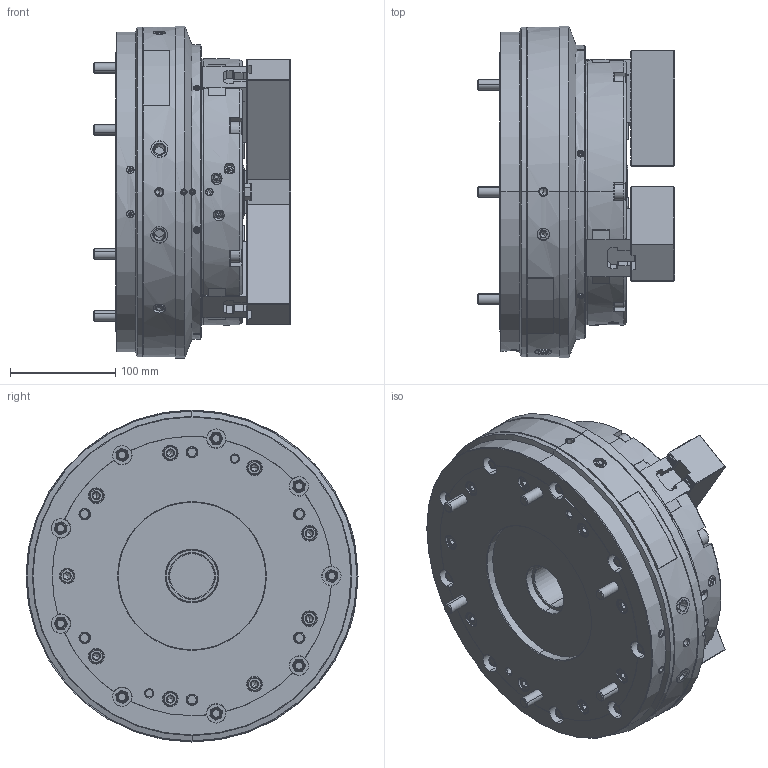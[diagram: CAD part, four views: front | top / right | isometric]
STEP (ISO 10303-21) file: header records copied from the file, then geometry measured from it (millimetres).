
FILE_DESCRIPTION (( 'STEP AP214' ), '1' );
FILE_NAME ('DEV-NRC10-UC.STEP', '2024-10-03T05:15:47', ( '' ), ( '' ), 'SwSTEP 2.0', 'SolidWorks 2022', '' );
FILE_SCHEMA (( 'AUTOMOTIVE_DESIGN' ));
Length unit declared in the file: millimetre
Products named in the file (9): DEV-NRC10-UC; Copy of 0030110130^DEV-NRC10-クミタテ; Copy of 0263003600^DEV-NRC10-クミタテ_円筒用; Part1^DEV-NRC10-クミタテ; Copy of 0693000002^DEV-NRC10-クミタテ; Copy of 61P300113^DEV-NRC10-クミタテ; Copy of 61P413698^DEV-NRC10-クミタテ; Copy of 0030112035^DEV-NRC10-クミタテ; Copy of 61P400852^DEV-NRC10-クミタテ
Assembly tree (23 placements, depth 2):
  DEV-NRC10-UC
    Copy of 61P300113^DEV-NRC10-クミタテ  x3
    Copy of 61P400852^DEV-NRC10-クミタテ  x3
    Copy of 61P413698^DEV-NRC10-クミタテ
    Copy of 0030110130^DEV-NRC10-クミタテ  x6
    Copy of 0030112035^DEV-NRC10-クミタテ  x6
    Copy of 0263003600^DEV-NRC10-クミタテ_円筒用
    Copy of 0693000002^DEV-NRC10-クミタテ  x2
    Part1^DEV-NRC10-クミタテ
Bounding box: 187 x 315 x 315 mm (x, y, z)
Volume: 8103521.5 mm3; surface area: 531863.6 mm2
Topology: 23 solids, 54 shells, 6103 faces, 16907 edges, 11032 vertices
Faces by surface type: plane 3741, cylinder 1450, cone 762, bspline 109, torus 33, sphere 8
Entity records: 144112 total; most frequent: CARTESIAN_POINT 38732, ORIENTED_EDGE 23180, DIRECTION 19790, EDGE_CURVE 11590, VECTOR 8102, LINE 8102, VERTEX_POINT 7553, AXIS2_PLACEMENT_3D 5844
